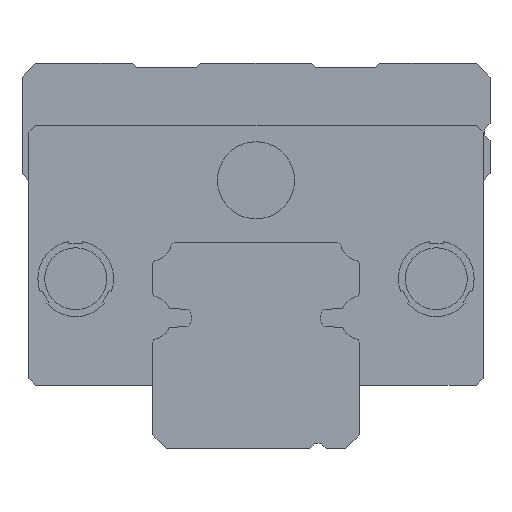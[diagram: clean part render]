
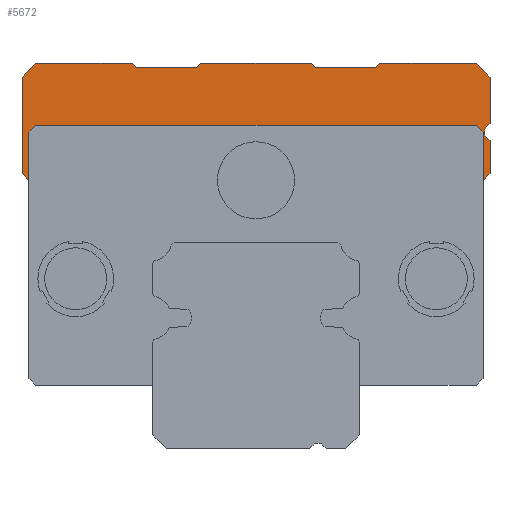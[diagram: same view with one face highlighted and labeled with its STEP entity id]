
A CAD part, left-side view. The second image highlights one B-rep face of the part: STEP entity #5672.
In plain terms, the highlighted planar face has unit normal (-1, 0, 0).
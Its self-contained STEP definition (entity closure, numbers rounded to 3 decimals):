
#5472=CARTESIAN_POINT('',(180.519,-0.05,24.956));
#5473=DIRECTION('',(1.0,0.0,0.0));
#5474=DIRECTION('',(0.0,0.0,-1.0));
#5475=AXIS2_PLACEMENT_3D('',#5472,#5473,#5474);
#5476=PLANE('',#5475);
#5477=CARTESIAN_POINT('',(180.519,-16.0,23.5));
#5478=VERTEX_POINT('',#5477);
#5479=CARTESIAN_POINT('',(180.519,16.,23.5));
#5480=VERTEX_POINT('',#5479);
#5481=CARTESIAN_POINT('',(180.519,-16.0,23.5));
#5482=DIRECTION('',(0.0,1.0,0.0));
#5483=VECTOR('',#5482,32.);
#5484=LINE('',#5481,#5483);
#5485=EDGE_CURVE('',#5478,#5480,#5484,.T.);
#5486=ORIENTED_EDGE('',*,*,#5485,.F.);
#5487=CARTESIAN_POINT('',(180.519,-16.5,23.));
#5488=VERTEX_POINT('',#5487);
#5489=CARTESIAN_POINT('',(180.519,-16.5,23.));
#5490=DIRECTION('',(0.0,0.707,0.707));
#5491=VECTOR('',#5490,0.707);
#5492=LINE('',#5489,#5491);
#5493=EDGE_CURVE('',#5488,#5478,#5492,.T.);
#5494=ORIENTED_EDGE('',*,*,#5493,.F.);
#5495=CARTESIAN_POINT('',(180.519,-16.5,19.5));
#5496=VERTEX_POINT('',#5495);
#5497=CARTESIAN_POINT('',(180.519,-16.5,19.5));
#5498=DIRECTION('',(0.0,0.0,1.0));
#5499=VECTOR('',#5498,3.5);
#5500=LINE('',#5497,#5499);
#5501=EDGE_CURVE('',#5496,#5488,#5500,.T.);
#5502=ORIENTED_EDGE('',*,*,#5501,.F.);
#5503=CARTESIAN_POINT('',(180.519,-17.0,20.0));
#5504=VERTEX_POINT('',#5503);
#5505=CARTESIAN_POINT('',(180.519,-17.0,20.0));
#5506=DIRECTION('',(0.0,0.707,-0.707));
#5507=VECTOR('',#5506,0.707);
#5508=LINE('',#5505,#5507);
#5509=EDGE_CURVE('',#5504,#5496,#5508,.T.);
#5510=ORIENTED_EDGE('',*,*,#5509,.F.);
#5511=CARTESIAN_POINT('',(180.519,-17.0,22.4));
#5512=VERTEX_POINT('',#5511);
#5513=CARTESIAN_POINT('',(180.519,-17.0,22.4));
#5514=DIRECTION('',(0.0,0.0,-1.0));
#5515=VECTOR('',#5514,2.4);
#5516=LINE('',#5513,#5515);
#5517=EDGE_CURVE('',#5512,#5504,#5516,.T.);
#5518=ORIENTED_EDGE('',*,*,#5517,.F.);
#5519=CARTESIAN_POINT('',(180.519,-16.7,22.7));
#5520=VERTEX_POINT('',#5519);
#5521=CARTESIAN_POINT('',(180.519,-16.7,22.7));
#5522=DIRECTION('',(0.0,-0.707,-0.707));
#5523=VECTOR('',#5522,0.424);
#5524=LINE('',#5521,#5523);
#5525=EDGE_CURVE('',#5520,#5512,#5524,.T.);
#5526=ORIENTED_EDGE('',*,*,#5525,.F.);
#5527=CARTESIAN_POINT('',(180.519,-16.7,23.3));
#5528=VERTEX_POINT('',#5527);
#5529=CARTESIAN_POINT('',(180.519,-17.1,23.));
#5530=DIRECTION('',(-1.0,0.0,0.0));
#5531=DIRECTION('',(0.0,-0.8,0.6));
#5532=AXIS2_PLACEMENT_3D('',#5529,#5530,#5531);
#5533=CIRCLE('',#5532,0.5);
#5534=EDGE_CURVE('',#5528,#5520,#5533,.T.);
#5535=ORIENTED_EDGE('',*,*,#5534,.F.);
#5536=CARTESIAN_POINT('',(180.519,-17.0,23.6));
#5537=VERTEX_POINT('',#5536);
#5538=CARTESIAN_POINT('',(180.519,-17.0,23.6));
#5539=DIRECTION('',(0.0,0.707,-0.707));
#5540=VECTOR('',#5539,0.424);
#5541=LINE('',#5538,#5540);
#5542=EDGE_CURVE('',#5537,#5528,#5541,.T.);
#5543=ORIENTED_EDGE('',*,*,#5542,.F.);
#5544=CARTESIAN_POINT('',(180.519,-17.0,27.0));
#5545=VERTEX_POINT('',#5544);
#5546=CARTESIAN_POINT('',(180.519,-17.0,27.0));
#5547=DIRECTION('',(0.0,0.0,-1.0));
#5548=VECTOR('',#5547,3.4);
#5549=LINE('',#5546,#5548);
#5550=EDGE_CURVE('',#5545,#5537,#5549,.T.);
#5551=ORIENTED_EDGE('',*,*,#5550,.F.);
#5552=CARTESIAN_POINT('',(180.519,-16.0,28.));
#5553=VERTEX_POINT('',#5552);
#5554=CARTESIAN_POINT('',(180.519,-16.0,28.));
#5555=DIRECTION('',(0.0,-0.707,-0.707));
#5556=VECTOR('',#5555,1.414);
#5557=LINE('',#5554,#5556);
#5558=EDGE_CURVE('',#5553,#5545,#5557,.T.);
#5559=ORIENTED_EDGE('',*,*,#5558,.F.);
#5560=CARTESIAN_POINT('',(180.519,-9.0,28.));
#5561=VERTEX_POINT('',#5560);
#5562=CARTESIAN_POINT('',(180.519,-9.0,28.));
#5563=DIRECTION('',(0.0,-1.0,0.0));
#5564=VECTOR('',#5563,7.0);
#5565=LINE('',#5562,#5564);
#5566=EDGE_CURVE('',#5561,#5553,#5565,.T.);
#5567=ORIENTED_EDGE('',*,*,#5566,.F.);
#5568=CARTESIAN_POINT('',(180.519,-8.7,27.7));
#5569=VERTEX_POINT('',#5568);
#5570=CARTESIAN_POINT('',(180.519,-8.7,27.7));
#5571=DIRECTION('',(0.0,-0.707,0.707));
#5572=VECTOR('',#5571,0.424);
#5573=LINE('',#5570,#5572);
#5574=EDGE_CURVE('',#5569,#5561,#5573,.T.);
#5575=ORIENTED_EDGE('',*,*,#5574,.F.);
#5576=CARTESIAN_POINT('',(180.519,-4.3,27.7));
#5577=VERTEX_POINT('',#5576);
#5578=CARTESIAN_POINT('',(180.519,-4.3,27.7));
#5579=DIRECTION('',(0.0,-1.0,0.0));
#5580=VECTOR('',#5579,4.4);
#5581=LINE('',#5578,#5580);
#5582=EDGE_CURVE('',#5577,#5569,#5581,.T.);
#5583=ORIENTED_EDGE('',*,*,#5582,.F.);
#5584=CARTESIAN_POINT('',(180.519,-4.0,28.));
#5585=VERTEX_POINT('',#5584);
#5586=CARTESIAN_POINT('',(180.519,-4.0,28.));
#5587=DIRECTION('',(0.0,-0.707,-0.707));
#5588=VECTOR('',#5587,0.424);
#5589=LINE('',#5586,#5588);
#5590=EDGE_CURVE('',#5585,#5577,#5589,.T.);
#5591=ORIENTED_EDGE('',*,*,#5590,.F.);
#5592=CARTESIAN_POINT('',(180.519,4.,28.));
#5593=VERTEX_POINT('',#5592);
#5594=CARTESIAN_POINT('',(180.519,4.,28.));
#5595=DIRECTION('',(0.0,-1.0,0.0));
#5596=VECTOR('',#5595,8.);
#5597=LINE('',#5594,#5596);
#5598=EDGE_CURVE('',#5593,#5585,#5597,.T.);
#5599=ORIENTED_EDGE('',*,*,#5598,.F.);
#5600=CARTESIAN_POINT('',(180.519,4.3,27.7));
#5601=VERTEX_POINT('',#5600);
#5602=CARTESIAN_POINT('',(180.519,4.3,27.7));
#5603=DIRECTION('',(0.0,-0.707,0.707));
#5604=VECTOR('',#5603,0.424);
#5605=LINE('',#5602,#5604);
#5606=EDGE_CURVE('',#5601,#5593,#5605,.T.);
#5607=ORIENTED_EDGE('',*,*,#5606,.F.);
#5608=CARTESIAN_POINT('',(180.519,8.7,27.7));
#5609=VERTEX_POINT('',#5608);
#5610=CARTESIAN_POINT('',(180.519,8.7,27.7));
#5611=DIRECTION('',(0.0,-1.0,0.0));
#5612=VECTOR('',#5611,4.4);
#5613=LINE('',#5610,#5612);
#5614=EDGE_CURVE('',#5609,#5601,#5613,.T.);
#5615=ORIENTED_EDGE('',*,*,#5614,.F.);
#5616=CARTESIAN_POINT('',(180.519,9.,28.));
#5617=VERTEX_POINT('',#5616);
#5618=CARTESIAN_POINT('',(180.519,9.,28.));
#5619=DIRECTION('',(0.0,-0.707,-0.707));
#5620=VECTOR('',#5619,0.424);
#5621=LINE('',#5618,#5620);
#5622=EDGE_CURVE('',#5617,#5609,#5621,.T.);
#5623=ORIENTED_EDGE('',*,*,#5622,.F.);
#5624=CARTESIAN_POINT('',(180.519,16.,28.));
#5625=VERTEX_POINT('',#5624);
#5626=CARTESIAN_POINT('',(180.519,16.,28.));
#5627=DIRECTION('',(0.0,-1.0,0.0));
#5628=VECTOR('',#5627,7.0);
#5629=LINE('',#5626,#5628);
#5630=EDGE_CURVE('',#5625,#5617,#5629,.T.);
#5631=ORIENTED_EDGE('',*,*,#5630,.F.);
#5632=CARTESIAN_POINT('',(180.519,17.,27.0));
#5633=VERTEX_POINT('',#5632);
#5634=CARTESIAN_POINT('',(180.519,17.,27.0));
#5635=DIRECTION('',(0.0,-0.707,0.707));
#5636=VECTOR('',#5635,1.414);
#5637=LINE('',#5634,#5636);
#5638=EDGE_CURVE('',#5633,#5625,#5637,.T.);
#5639=ORIENTED_EDGE('',*,*,#5638,.F.);
#5640=CARTESIAN_POINT('',(180.519,17.,20.0));
#5641=VERTEX_POINT('',#5640);
#5642=CARTESIAN_POINT('',(180.519,17.,20.0));
#5643=DIRECTION('',(0.0,0.0,1.0));
#5644=VECTOR('',#5643,7.0);
#5645=LINE('',#5642,#5644);
#5646=EDGE_CURVE('',#5641,#5633,#5645,.T.);
#5647=ORIENTED_EDGE('',*,*,#5646,.F.);
#5648=CARTESIAN_POINT('',(180.519,16.5,19.5));
#5649=VERTEX_POINT('',#5648);
#5650=CARTESIAN_POINT('',(180.519,16.5,19.5));
#5651=DIRECTION('',(0.0,0.707,0.707));
#5652=VECTOR('',#5651,0.707);
#5653=LINE('',#5650,#5652);
#5654=EDGE_CURVE('',#5649,#5641,#5653,.T.);
#5655=ORIENTED_EDGE('',*,*,#5654,.F.);
#5656=CARTESIAN_POINT('',(180.519,16.5,23.));
#5657=VERTEX_POINT('',#5656);
#5658=CARTESIAN_POINT('',(180.519,16.5,23.));
#5659=DIRECTION('',(0.0,0.0,-1.0));
#5660=VECTOR('',#5659,3.5);
#5661=LINE('',#5658,#5660);
#5662=EDGE_CURVE('',#5657,#5649,#5661,.T.);
#5663=ORIENTED_EDGE('',*,*,#5662,.F.);
#5664=CARTESIAN_POINT('',(180.519,16.,23.5));
#5665=DIRECTION('',(0.0,0.707,-0.707));
#5666=VECTOR('',#5665,0.707);
#5667=LINE('',#5664,#5666);
#5668=EDGE_CURVE('',#5480,#5657,#5667,.T.);
#5669=ORIENTED_EDGE('',*,*,#5668,.F.);
#5670=EDGE_LOOP('',(#5486,#5494,#5502,#5510,#5518,#5526,#5535,#5543,#5551,#5559,#5567,#5575,#5583,#5591,#5599,#5607,#5615,#5623,#5631,#5639,#5647,#5655,#5663,#5669));
#5671=FACE_OUTER_BOUND('',#5670,.T.);
#5672=ADVANCED_FACE('',(#5671),#5476,.F.);
